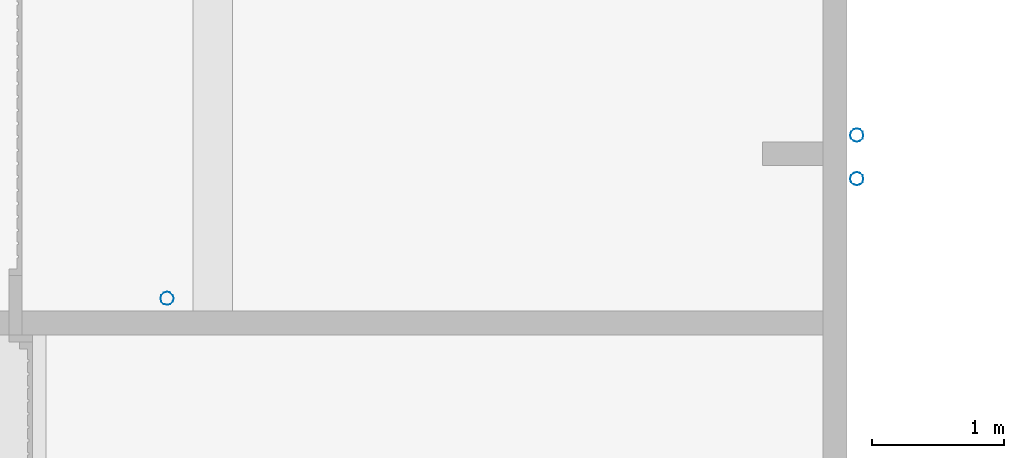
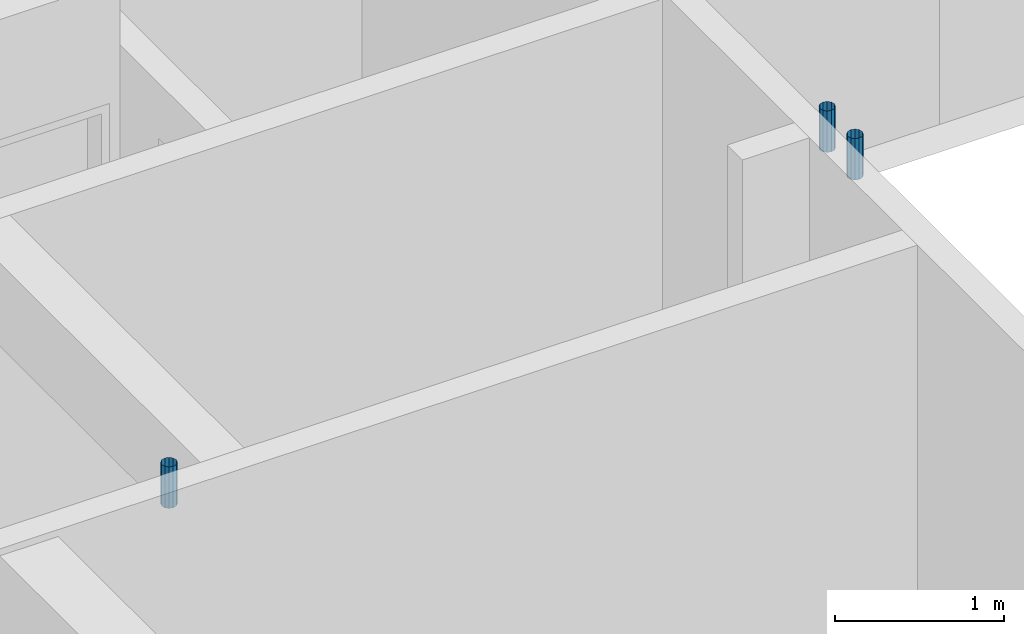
# One storey, part 24 of 41: 3 discrete accessories.
"""IFC2X3 building model written with IfcOpenShell, lengths in millimetres."""

import ifcopenshell
import ifcopenshell.guid

model = None  # the IFC model being written
_history = None  # IfcOwnerHistory: only IFC2X3 demands one
_inside = {}  # id of a spatial element -> (the spatial element, [elements in it])
_under = {}  # id of a project, library or spatial element -> (it, [spatial elements below it])
_declared = {}  # id of a project -> (the project, [libraries it declares])
_typed = {}  # id of a type object -> (the type object, [elements of that type])
_made_of = {}  # id of a material, layer set ... -> (it, [elements and type objects made of it])


def new_model(schema):
    """Start an empty IFC model of exactly this schema.

    Asked for "IFC4X3", IfcOpenShell would pick the latest addendum, in which some entities
    have other attributes; the version numbers below select the first issue.
    IFC2X3 requires an IfcOwnerHistory on every rooted entity: one is made here for all.
    """
    global model, _history
    if schema == "IFC4X3":
        model = ifcopenshell.file(schema_version=(4, 3, 0, 0))
    else:
        model = ifcopenshell.file(schema=schema)
    _inside.clear()
    _under.clear()
    _declared.clear()
    _typed.clear()
    _made_of.clear()
    _history = None
    if model.schema == "IFC2X3":
        org = make("IfcOrganization", Name="unknown")
        user = make(
            "IfcPersonAndOrganization",
            ThePerson=make("IfcPerson", FamilyName="unknown"),
            TheOrganization=org,
        )
        app = make(
            "IfcApplication",
            ApplicationDeveloper=org,
            Version="unknown",
            ApplicationFullName="unknown",
            ApplicationIdentifier="unknown",
        )
        _history = make(
            "IfcOwnerHistory",
            OwningUser=user,
            OwningApplication=app,
            ChangeAction="ADDED",
            CreationDate=0,
        )
    return model


def make(cls, **values):
    """One entity of the class cls with the attributes given. An attribute that is None is left unset."""
    return model.create_entity(
        cls, **{name: value for name, value in values.items() if value is not None}
    )


def entity(cls, *values):
    """Any entity or typed value of the class cls, its attributes in the order of the schema. None: left unset."""
    e = model.create_entity(cls)
    for i, value in enumerate(values):
        if value is not None:
            e[i] = value
    return e


def rooted(cls, **values):
    """An entity with a GlobalId (a new one), such as an element, a storey or a relation."""
    return make(cls, GlobalId=ifcopenshell.guid.new(), OwnerHistory=_history, **values)


def si_unit(unit_type, name, prefix=None):
    """IfcSIUnit, for example si_unit("LENGTHUNIT", "METRE", prefix="MILLI")."""
    return make("IfcSIUnit", UnitType=unit_type, Prefix=prefix, Name=name)


def converted_unit(unit_type, name, factor, base, dimensions=None, offset=None):
    """IfcConversionBasedUnit, such as the inch: factor (a typed value) times the base unit."""
    return make(
        "IfcConversionBasedUnit"
        if offset is None
        else "IfcConversionBasedUnitWithOffset",
        ConversionOffset=offset,
        Dimensions=None
        if dimensions is None
        else entity("IfcDimensionalExponents", *dimensions),
        UnitType=unit_type,
        Name=name,
        ConversionFactor=make(
            "IfcMeasureWithUnit", ValueComponent=factor, UnitComponent=base
        ),
    )


def derived_unit(unit_type, elements):
    """IfcDerivedUnit: a product of units, each with its exponent."""
    return make(
        "IfcDerivedUnit",
        Elements=[
            make("IfcDerivedUnitElement", Unit=unit, Exponent=power)
            for unit, power in elements
        ],
        UnitType=unit_type,
    )


def money_unit(currency):
    """IfcMonetaryUnit."""
    return make("IfcMonetaryUnit", Currency=currency)


def assignment(units):
    """IfcUnitAssignment: the units of a project."""
    return None if units is None else make("IfcUnitAssignment", Units=units)


def point(xyz):
    """IfcCartesianPoint."""
    return None if xyz is None else make("IfcCartesianPoint", Coordinates=xyz)


def direction(xyz):
    """IfcDirection."""
    return None if xyz is None else make("IfcDirection", DirectionRatios=xyz)


def frame(location, z_axis=None, x_axis=None):
    """IfcAxis2Placement3D, a coordinate frame: its origin and axes. An axis left out is left unset."""
    return make(
        "IfcAxis2Placement3D",
        Location=point(location),
        Axis=direction(z_axis),
        RefDirection=direction(x_axis),
    )


def origin_with_axes():
    """The frame at (0, 0, 0) with the z axis (0, 0, 1) and the x axis (1, 0, 0) written out."""
    return frame((0.0, 0.0, 0.0), z_axis=(0.0, 0.0, 1.0), x_axis=(1.0, 0.0, 0.0))


def place(relative_to, where):
    """IfcLocalPlacement: puts the frame where relative to a parent placement (None: the world)."""
    return make(
        "IfcLocalPlacement", PlacementRelTo=relative_to, RelativePlacement=where
    )


def context(
    kind, dimensions, precision=None, world=None, true_north=None, identifier=None
):
    """IfcGeometricRepresentationContext, for example the 3D "Model" context."""
    return make(
        "IfcGeometricRepresentationContext",
        ContextIdentifier=identifier,
        ContextType=kind,
        CoordinateSpaceDimension=dimensions,
        Precision=precision,
        WorldCoordinateSystem=world,
        TrueNorth=true_north,
    )


def subcontext(parent, identifier, kind, view, scale=None):
    """IfcGeometricRepresentationSubContext, for example "Body" below "Model"."""
    return make(
        "IfcGeometricRepresentationSubContext",
        ContextIdentifier=identifier,
        ContextType=kind,
        ParentContext=parent,
        TargetScale=scale,
        TargetView=view,
    )


def project(units=None, contexts=None):
    """IfcProject with its units and contexts."""
    return rooted(
        "IfcProject",
        Name="project",
        RepresentationContexts=contexts,
        UnitsInContext=assignment(units),
    )


def spatial(cls, under=None, at=None, **own):
    """A site, building, storey or space (cls), placed at a placement, below another one or the project."""
    s = rooted(cls, ObjectPlacement=at, **own)
    if under is not None:
        _under.setdefault(under.id(), (under, []))[1].append(s)
    return s


def faces_of(points, faces, orient=None, outer=None):
    """IfcFace entities. A face is a list of loops; a loop is a list of indices into points, from 0.

    orient and outer hold one flag for each loop. By default every Orientation is true, the
    first loop of a face is its IfcFaceOuterBound and the others are IfcFaceBound.
    """
    made = []
    for i, loops in enumerate(faces):
        bounds = []
        for j, loop in enumerate(loops):
            is_outer = j == 0 if outer is None else outer[i][j]
            bounds.append(
                make(
                    "IfcFaceOuterBound" if is_outer else "IfcFaceBound",
                    Bound=make("IfcPolyLoop", Polygon=[points[k] for k in loop]),
                    Orientation=True if orient is None else orient[i][j],
                )
            )
        made.append(make("IfcFace", Bounds=bounds))
    return made


def open_shell(faces, orient=None, outer=None):
    """The faces of one IfcOpenShell. surface_model builds it on its shared points."""
    return ("IfcOpenShell", faces, orient, outer)


def surface_model(cls, points, shells):
    """IfcFaceBasedSurfaceModel or IfcShellBasedSurfaceModel (cls): surfaces that need not close."""
    shared = [point(p) for p in points]
    made = [make(c, CfsFaces=faces_of(shared, fs, o, b)) for c, fs, o, b in shells]
    if cls == "IfcFaceBasedSurfaceModel":
        return make(cls, FbsmFaces=made)
    return make(cls, SbsmBoundary=made)


def shape(context_of_items, identifier, shape_type, items):
    """IfcShapeRepresentation: the items that make up one representation, for example the "Body"."""
    return make(
        "IfcShapeRepresentation",
        ContextOfItems=context_of_items,
        RepresentationIdentifier=identifier,
        RepresentationType=shape_type,
        Items=items,
    )


def source(mapping_origin, context_of_items, identifier, shape_type, items):
    """IfcRepresentationMap: a shape defined once, which mapped items show again and again."""
    return make(
        "IfcRepresentationMap",
        MappingOrigin=mapping_origin,
        MappedRepresentation=shape(context_of_items, identifier, shape_type, items),
    )


def transform(
    local_origin,
    x_axis=None,
    y_axis=None,
    z_axis=None,
    scale=None,
    scale2=None,
    scale3=None,
    uniform=True,
):
    """IfcCartesianTransformationOperator3D, or its non-uniform kind. x_axis, y_axis, z_axis: its Axis1, 2, 3."""
    if uniform:
        return make(
            "IfcCartesianTransformationOperator3D",
            Axis1=direction(x_axis),
            Axis2=direction(y_axis),
            LocalOrigin=point(local_origin),
            Scale=scale,
            Axis3=direction(z_axis),
        )
    return make(
        "IfcCartesianTransformationOperator3DnonUniform",
        Axis1=direction(x_axis),
        Axis2=direction(y_axis),
        LocalOrigin=point(local_origin),
        Scale=scale,
        Axis3=direction(z_axis),
        Scale2=scale2,
        Scale3=scale3,
    )


def mapped(mapping_source, mapping_target):
    """IfcMappedItem: shows the shape of a source again, moved by a transform."""
    return make(
        "IfcMappedItem", MappingSource=mapping_source, MappingTarget=mapping_target
    )


def made_of(thing, what):
    """Note that an element or type object is made of a material, layer set ...; save() writes the relation."""
    if what is not None:
        _made_of.setdefault(what.id(), (what, []))[1].append(thing)
    return thing


def type_object(cls, material=None, **own):
    """A type object (cls), such as IfcWallType, which elements share."""
    return made_of(rooted(cls, **own), material)


def element(
    cls,
    number,
    at=None,
    inside=None,
    cuts=None,
    type_object=None,
    material=None,
    context=None,
    identifier="Body",
    shape_type=None,
    held_by="IfcProductDefinitionShape",
    body=None,
    shapes=None,
    **own,
):
    """One element of the class cls, such as IfcWall. Its Tag is "e" and its number.

    at: its placement. inside: the storey or other place that contains it. cuts: it is an
    opening in that element (IfcRelVoidsElement). A single representation is given by context,
    identifier, shape_type and body (its items); several are given by shapes. held_by: the class
    of the entity that holds the representations. save() writes the other relations.
    """
    e = rooted(cls, Tag="e%d" % number, ObjectPlacement=at, **own)
    if body is not None:
        shapes = [shape(context, identifier, shape_type, body)]
    if shapes is not None:
        e.Representation = make(held_by, Representations=shapes)
    if inside is not None:
        _inside.setdefault(inside.id(), (inside, []))[1].append(e)
    if cuts is not None:
        rooted(
            "IfcRelVoidsElement", RelatingBuildingElement=cuts, RelatedOpeningElement=e
        )
    if type_object is not None:
        _typed.setdefault(type_object.id(), (type_object, []))[1].append(e)
    return made_of(e, material)


def aggregate(whole, parts):
    """IfcRelAggregates: a whole, such as a stair, and the parts it consists of."""
    return rooted("IfcRelAggregates", RelatingObject=whole, RelatedObjects=parts)


def save(model, path):
    """Write the relations noted so far, then the file.

    IfcRelAggregates (storeys below a building ...), IfcRelContainedInSpatialStructure (elements
    in a storey), IfcRelDefinesByType, IfcRelAssociatesMaterial and IfcRelDeclares: one each for
    every whole, place, type object, material and project.
    """
    for whole, parts in _under.values():
        aggregate(whole, parts)
    for where, things in _inside.values():
        rooted(
            "IfcRelContainedInSpatialStructure",
            RelatedElements=things,
            RelatingStructure=where,
        )
    for kind, things in _typed.values():
        rooted("IfcRelDefinesByType", RelatedObjects=things, RelatingType=kind)
    for what, things in _made_of.values():
        rooted("IfcRelAssociatesMaterial", RelatedObjects=things, RelatingMaterial=what)
    for by, libraries in _declared.values():
        rooted("IfcRelDeclares", RelatingContext=by, RelatedDefinitions=libraries)
    model.write(path)


model = new_model("IFC2X3")

# Units and contexts
model_context = context("Model", 3, precision=0.01, world=origin_with_axes(), true_north=direction((0.0, 1.0)))
body_context = subcontext(model_context, "Body", "Model", "MODEL_VIEW")
ifc_project = project(units=[si_unit("LENGTHUNIT", "METRE", prefix="MILLI"), si_unit("AREAUNIT", "SQUARE_METRE"), si_unit("VOLUMEUNIT", "CUBIC_METRE"), converted_unit("PLANEANGLEUNIT", "DEGREE", entity("IfcPlaneAngleMeasure", 0.0174532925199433), si_unit("PLANEANGLEUNIT", "RADIAN"), dimensions=[0, 0, 0, 0, 0, 0, 0]), money_unit("USD"), converted_unit("TIMEUNIT", "Year", entity("IfcTimeMeasure", 31557600.0), si_unit("TIMEUNIT", "SECOND"), dimensions=[0, 0, 1, 0, 0, 0, 0]), si_unit("MASSUNIT", "GRAM", prefix="KILO"), si_unit("THERMODYNAMICTEMPERATUREUNIT", "DEGREE_CELSIUS"), si_unit("LUMINOUSINTENSITYUNIT", "LUMEN"), si_unit("ENERGYUNIT", "JOULE", prefix="MEGA"), derived_unit("THERMALCONDUCTANCEUNIT", [(si_unit("POWERUNIT", "WATT"), 1), (si_unit("LENGTHUNIT", "METRE"), -1), (si_unit("THERMODYNAMICTEMPERATUREUNIT", "KELVIN"), -1)]), derived_unit("SPECIFICHEATCAPACITYUNIT", [(si_unit("ENERGYUNIT", "JOULE"), 1), (si_unit("MASSUNIT", "GRAM", prefix="KILO"), -1), (si_unit("THERMODYNAMICTEMPERATUREUNIT", "KELVIN"), -1)]), derived_unit("MASSDENSITYUNIT", [(si_unit("MASSUNIT", "GRAM", prefix="KILO"), 1), (si_unit("VOLUMEUNIT", "CUBIC_METRE"), -1)])], contexts=[model_context])

# Site, building, storey
site_placement = place(None, origin_with_axes())
site = spatial("IfcSite", under=ifc_project, at=site_placement, Name="Site", CompositionType="ELEMENT")
building_placement = place(site_placement, origin_with_axes())
building = spatial("IfcBuilding", under=site, at=building_placement, Name="Bâtiment", CompositionType="ELEMENT")
storey_placement = place(building_placement, origin_with_axes())
storey = spatial("IfcBuildingStorey", under=building, at=storey_placement, Name="sousol", CompositionType="ELEMENT", Elevation=0.0)

# Discrete accessories
discrete_accessory_type = type_object("IfcDiscreteAccessoryType", Name="Tuyau descente 27")
shared_shape_1 = source(origin_with_axes(), body_context, "Body", "SurfaceModel", [
    surface_model("IfcShellBasedSurfaceModel", [(-50.0, 0.0, 300.0), (-50.0, 0.0, 0.0), (-43.30127018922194, -25.0, 0.0), (-43.30127018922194, -25.0, 300.0), (-43.30127018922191, 25.00000000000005, 300.0), (-43.30127018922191, 25.00000000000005, 0.0), (-25.00000000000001, -43.30127018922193, 0.0), (-25.00000000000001, -43.30127018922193, 300.0), (-24.99999999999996, 43.30127018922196, 300.0), (-24.99999999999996, 43.30127018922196, 0.0), (0.0, -50.0, 0.0), (0.0, -50.0, 300.0), (0.0, 50.0, 300.0), (0.0, 50.0, 0.0), (24.99999999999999, -43.30127018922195, 0.0), (24.99999999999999, -43.30127018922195, 300.0), (25.00000000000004, 43.30127018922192, 300.0), (25.00000000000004, 43.30127018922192, 0.0), (43.30127018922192, -25.00000000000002, 0.0), (43.30127018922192, -25.00000000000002, 300.0), (43.30127018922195, 24.99999999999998, 300.0), (43.30127018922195, 24.99999999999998, 0.0), (50.0, 0.0, 0.0), (50.0, 0.0, 300.0)], [open_shell([[[0, 1, 2, 3]], [[4, 5, 1, 0]], [[3, 2, 6, 7]], [[8, 9, 5, 4]], [[7, 6, 10, 11]], [[12, 13, 9, 8]], [[11, 10, 14, 15]], [[16, 17, 13, 12]], [[15, 14, 18, 19]], [[20, 21, 17, 16]], [[19, 18, 22, 23]], [[23, 22, 21, 20]]])]),
])
for number, where, z_axis, x_axis, name in (
    (1, (2229212.465333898, -637138.0577439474, 2700.0), (0.0, 0.0, 1.0), (-0.9999999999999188, 4.028529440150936e-07, 0.0), "Obj.-318"),
    (2, (2234431.023090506, -636232.7636924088, 2700.0), (0.0, 0.0, 1.0), (-0.9999999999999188, 4.028529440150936e-07, 0.0), "Obj.-318"),
):
    element("IfcDiscreteAccessory", number, at=place(storey_placement, frame(where, z_axis=z_axis, x_axis=x_axis)), inside=storey, type_object=discrete_accessory_type, Name=name, context=body_context, shape_type="MappedRepresentation", body=[
        mapped(shared_shape_1, transform((0.0, 0.0, 0.0))),
    ])
shared_shape_2 = source(origin_with_axes(), body_context, "Body", "SurfaceModel", [
    surface_model("IfcShellBasedSurfaceModel", [(50.0, 0.0, 300.0), (43.30127018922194, -25.0, 300.0), (43.30127018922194, -25.0, 0.0), (50.0, 0.0, 0.0), (25.00000000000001, -43.30127018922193, 300.0), (25.00000000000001, -43.30127018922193, 0.0), (43.30127018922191, 25.00000000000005, 300.0), (43.30127018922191, 25.00000000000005, 0.0), (0.0, -50.0, 300.0), (0.0, -50.0, 0.0), (24.99999999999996, 43.30127018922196, 300.0), (24.99999999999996, 43.30127018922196, 0.0), (-24.99999999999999, -43.30127018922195, 300.0), (-24.99999999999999, -43.30127018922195, 0.0), (0.0, 50.0, 300.0), (0.0, 50.0, 0.0), (-43.30127018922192, -25.00000000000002, 300.0), (-43.30127018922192, -25.00000000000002, 0.0), (-25.00000000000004, 43.30127018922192, 300.0), (-25.00000000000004, 43.30127018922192, 0.0), (-50.0, 0.0, 300.0), (-50.0, 0.0, 0.0), (-43.30127018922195, 24.99999999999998, 300.0), (-43.30127018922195, 24.99999999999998, 0.0)], [open_shell([[[0, 1, 2, 3]], [[1, 4, 5, 2]], [[6, 0, 3, 7]], [[4, 8, 9, 5]], [[10, 6, 7, 11]], [[8, 12, 13, 9]], [[14, 10, 11, 15]], [[12, 16, 17, 13]], [[18, 14, 15, 19]], [[16, 20, 21, 17]], [[22, 18, 19, 23]], [[20, 22, 23, 21]]])]),
])
discrete_accessory_placement = place(storey_placement, frame((2234431.023090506, -635903.3438947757, 2700.000000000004), z_axis=(0.0, 0.0, 1.0), x_axis=(1.0, 0.0, 0.0)))
element("IfcDiscreteAccessory", 3, at=discrete_accessory_placement, inside=storey, type_object=discrete_accessory_type, Name="Obj.-318", context=body_context, shape_type="MappedRepresentation", body=[
    mapped(shared_shape_2, transform((0.0, 0.0, 0.0))),
])

save(model, "model.ifc")
